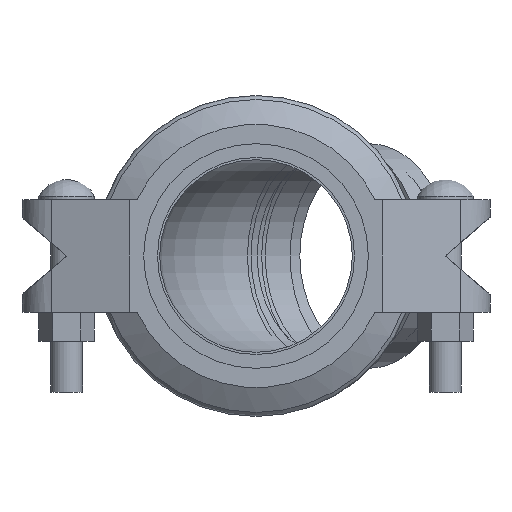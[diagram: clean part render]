
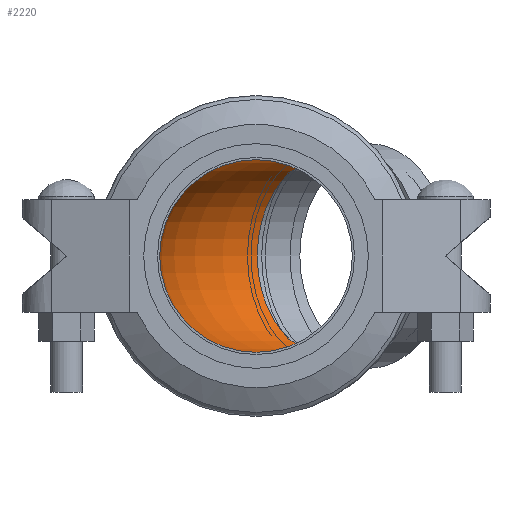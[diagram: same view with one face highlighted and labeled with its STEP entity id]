
A CAD part, left-side view. The second image highlights one B-rep face of the part: STEP entity #2220.
In plain terms, the highlighted toroidal (fillet/blend) face has major radius 95.783 mm and minor radius 38.964 mm.
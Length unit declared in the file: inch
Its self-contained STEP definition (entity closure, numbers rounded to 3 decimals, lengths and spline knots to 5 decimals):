
#70=TOROIDAL_SURFACE('',#2450,3.771,1.534);
#479=FACE_OUTER_BOUND('',#600,.T.);
#600=EDGE_LOOP('',(#1410,#1411,#1412,#1413,#1414,#1415));
#743=CIRCLE('',#2451,1.534);
#744=CIRCLE('',#2452,1.534);
#745=CIRCLE('',#2453,2.237);
#746=CIRCLE('',#2454,1.534);
#747=CIRCLE('',#2455,1.534);
#863=VERTEX_POINT('',#3416);
#864=VERTEX_POINT('',#3417);
#865=VERTEX_POINT('',#3420);
#866=VERTEX_POINT('',#3422);
#1079=EDGE_CURVE('',#863,#864,#743,.T.);
#1080=EDGE_CURVE('',#864,#863,#744,.T.);
#1081=EDGE_CURVE('',#863,#865,#745,.T.);
#1082=EDGE_CURVE('',#865,#866,#746,.T.);
#1083=EDGE_CURVE('',#866,#865,#747,.T.);
#1410=ORIENTED_EDGE('',*,*,#1079,.T.);
#1411=ORIENTED_EDGE('',*,*,#1080,.T.);
#1412=ORIENTED_EDGE('',*,*,#1081,.T.);
#1413=ORIENTED_EDGE('',*,*,#1082,.T.);
#1414=ORIENTED_EDGE('',*,*,#1083,.T.);
#1415=ORIENTED_EDGE('',*,*,#1081,.F.);
#2220=ADVANCED_FACE('',(#479),#70,.F.);
#2450=AXIS2_PLACEMENT_3D('',#3415,#2734,#2735);
#2451=AXIS2_PLACEMENT_3D('',#3418,#2736,#2737);
#2452=AXIS2_PLACEMENT_3D('',#3419,#2738,#2739);
#2453=AXIS2_PLACEMENT_3D('',#3421,#2740,#2741);
#2454=AXIS2_PLACEMENT_3D('',#3423,#2742,#2743);
#2455=AXIS2_PLACEMENT_3D('',#3424,#2744,#2745);
#2734=DIRECTION('center_axis',(0.,0.,-1.));
#2735=DIRECTION('ref_axis',(-1.,0.,0.));
#2736=DIRECTION('center_axis',(0.,-1.,0.));
#2737=DIRECTION('ref_axis',(1.,0.,0.));
#2738=DIRECTION('center_axis',(0.,-1.,0.));
#2739=DIRECTION('ref_axis',(1.,0.,0.));
#2740=DIRECTION('center_axis',(0.,0.,-1.));
#2741=DIRECTION('ref_axis',(-1.,0.,0.));
#2742=DIRECTION('center_axis',(0.707,0.707,0.));
#2743=DIRECTION('ref_axis',(0.707,-0.707,0.));
#2744=DIRECTION('center_axis',(0.707,0.707,0.));
#2745=DIRECTION('ref_axis',(0.707,-0.707,0.));
#3415=CARTESIAN_POINT('Origin',(3.771,0.938,0.));
#3416=CARTESIAN_POINT('',(1.534,0.938,0.));
#3417=CARTESIAN_POINT('',(-1.534,0.938,0.));
#3418=CARTESIAN_POINT('Origin',(0.,0.938,0.));
#3419=CARTESIAN_POINT('Origin',(0.,0.938,0.));
#3420=CARTESIAN_POINT('',(2.1892,2.5198,0.));
#3421=CARTESIAN_POINT('Origin',(3.771,0.938,0.));
#3422=CARTESIAN_POINT('',(0.0198,4.6892,0.));
#3423=CARTESIAN_POINT('Origin',(1.1045,3.6045,0.));
#3424=CARTESIAN_POINT('Origin',(1.1045,3.6045,0.));
